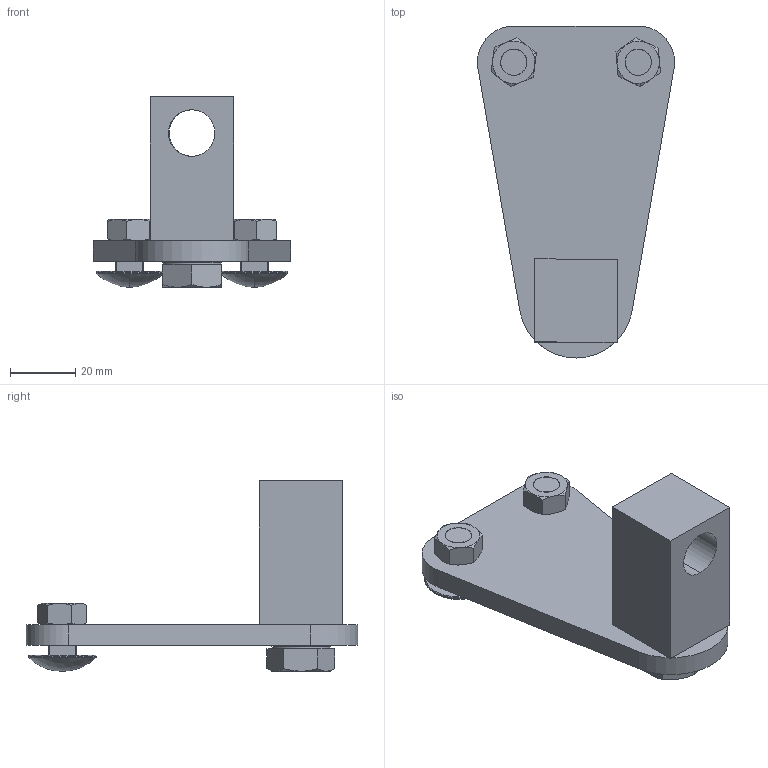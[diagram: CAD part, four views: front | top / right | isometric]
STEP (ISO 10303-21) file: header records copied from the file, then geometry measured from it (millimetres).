
FILE_DESCRIPTION((''),'2;1');
FILE_NAME('73ACS_ASM','2023-03-02T',('jenni.wallner'),(''),'PRO/ENGINEER BY PARAMETRIC TECHNOLOGY CORPORATION, 2012420','PRO/ENGINEER BY PARAMETRIC TECHNOLOGY CORPORATION, 2012420','');
FILE_SCHEMA(('CONFIG_CONTROL_DESIGN'));
Length unit declared in the file: inch
Products named in the file (7): 520321; 807-3543; 990801MSS; 532324; 961220MSS; ASM0001_ASM; 73ACS_ASM
Assembly tree (8 placements, depth 3):
  73ACS_ASM
    ASM0001_ASM
      520321
      807-3543  x2
      990801MSS  x2
      532324
      961220MSS
Bounding box: 60.33 x 101.6 x 58.35 mm (x, y, z)
Volume: 59617.3 mm3; surface area: 24300.6 mm2
Topology: 7 solids, 7 shells, 178 faces, 412 edges, 246 vertices
Faces by surface type: plane 66, cylinder 54, cone 38, sphere 12, torus 8
Entity records: 3944 total; most frequent: CARTESIAN_POINT 845, DIRECTION 671, ORIENTED_EDGE 576, EDGE_CURVE 288, AXIS2_PLACEMENT_3D 272, VERTEX_POINT 179, EDGE_LOOP 141, VECTOR 127
